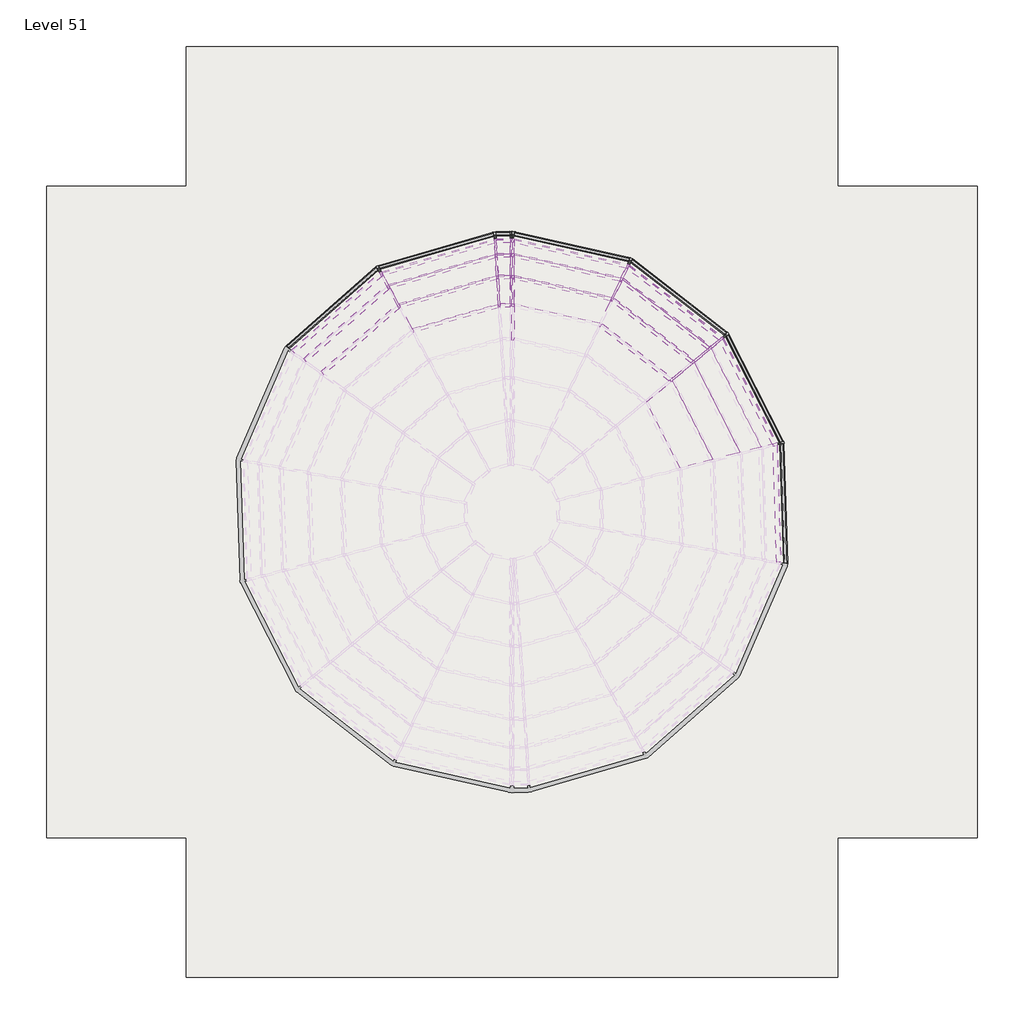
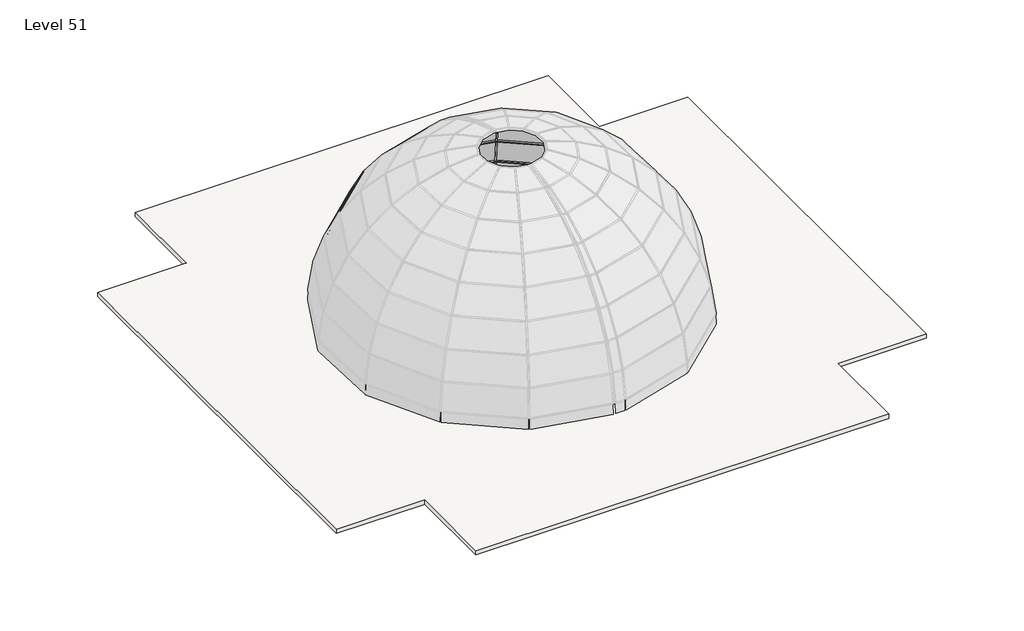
# One storey, part 5 of 5: 50 members, 29 plates, 1 roof.
"""IFC4 building model written with IfcOpenShell, lengths in millimetres."""

from ifc_helpers import new_model, si_unit, frame, origin, place, context, project, spatial, polyline, outline, extrude, transform, mapped, element, save
from components import member_1612663b, member_5eaec6db, member_d183bd50, member_3761eb40, member_c8fdef67, member_19265363, member_bab2e2f0, member_1b14bcb5, member_1e4e3dac, member_4ad3c4be, member_44404943, member_f539bf5b, member_d9f9b3f1, member_01029f2d, member_43068072, member_3efaebad, member_6411af83, member_606bd935, member_05436e89, member_70710cef, member_ac0e8256, member_b7186879, member_3d04d663, member_1ac3cc72, member_84afa52a, system_panel_glazed_7ce28d7e, system_panel_glazed_91a8511b, system_panel_glazed_bc7ae3a6, system_panel_glazed_24f176ce, system_panel_glazed_5c68d9ee, system_panel_glazed_73e2dce4, system_panel_glazed_0a8d51ec, system_panel_glazed_e2cbaf5e, system_panel_glazed_cf9631f2, system_panel_glazed_53c58da0, system_panel_glazed_9d9da8a2, system_panel_glazed_7f2b973a, system_panel_glazed_65ecf698, system_panel_glazed_75a13c62, system_panel_glazed_a149731e, system_panel_glazed_d1d661fa

model = new_model("IFC4")

# Units and contexts
model_context = context("Model", 3, world=origin())
ifc_project = project(units=[si_unit("LENGTHUNIT", "METRE", prefix="MILLI")], contexts=[model_context])

# Site, building, storey
site = spatial("IfcSite", under=ifc_project)
building = spatial("IfcBuilding", under=site)
storey = spatial("IfcBuildingStorey", under=building, Name="Level 51", Elevation=152400.0)

# Members
placement = place(None, origin())
member_shape = member_1612663b(model_context)
element("IfcMember", 1, ObjectType="Rectangular Mullion : 2.5\" x 5\" rectangular", at=placement, inside=storey, context=model_context, shape_type="MappedRepresentation", body=[
    mapped(member_shape, transform((-187.1329919, 565.2919821, 157327.0596321), x_axis=(0.8767485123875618, 0.4809491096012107, 0.0), y_axis=(-0.4253451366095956, 0.7753849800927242, 0.46675437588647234), z_axis=(0.22448510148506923, -0.40922620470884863, 0.8843869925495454))),
])
element("IfcMember", 2, ObjectType="Rectangular Mullion : 2.5\" x 5\" rectangular", at=placement, inside=storey, context=model_context, shape_type="MappedRepresentation", body=[
    mapped(member_shape, transform((-529.2482866, 1188.9527181, 155979.2538554), x_axis=(0.876748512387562, 0.4809491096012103, 0.0), y_axis=(-0.45672161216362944, 0.8325828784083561, 0.3133865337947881), z_axis=(0.15072297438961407, -0.27476117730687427, 0.9496256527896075))),
])
element("IfcMember", 3, ObjectType="Rectangular Mullion : 2.5\" x 5\" rectangular", at=placement, inside=storey, context=model_context, shape_type="MappedRepresentation", body=[
    mapped(member_shape, transform((3099.3037805, 576.4736405, 158538.0026411), x_axis=(0.9980933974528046, 0.06172171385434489, 0.0), y_axis=(-0.04904296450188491, 0.7930670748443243, 0.6071568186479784), z_axis=(0.037474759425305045, -0.6059992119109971, 0.7945820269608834))),
])
element("IfcMember", 4, ObjectType="Rectangular Mullion : 2.5\" x 5\" rectangular", at=placement, inside=storey, context=model_context, shape_type="MappedRepresentation", body=[
    mapped(member_shape, transform((3042.1922472, 1500.0164394, 157327.0596321), x_axis=(0.9980933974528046, 0.06172171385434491, 0.0), y_axis=(-0.054585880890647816, 0.8827008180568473, 0.4667543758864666), z_axis=(0.028808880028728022, -0.46586446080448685, 0.8843869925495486))),
])
element("IfcMember", 5, ObjectType="Rectangular Mullion : 2.5\" x 5\" rectangular", at=placement, inside=storey, context=model_context, shape_type="MappedRepresentation", body=[
    mapped(member_shape, transform((2998.287514, 2209.9938777, 155979.2538554), x_axis=(0.9980933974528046, 0.061721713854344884, 0.0), y_axis=(-0.0586125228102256, 0.947815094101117, 0.3133865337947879), z_axis=(0.01934275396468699, -0.31278903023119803, 0.9496256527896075))),
])
element("IfcMember", 6, ObjectType="Rectangular Mullion : 2.5\" x 5\" rectangular", at=placement, inside=storey, context=model_context, shape_type="MappedRepresentation", body=[
    mapped(member_shape, transform((8741.29142, -1869.6452335, 158538.0026411), x_axis=(0.6371882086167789, -0.7707082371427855, 0.0), y_axis=(0.6123909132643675, 0.5062982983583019, 0.6071568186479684), z_axis=(-0.4679407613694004, -0.38687316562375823, 0.7945820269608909))),
])
element("IfcMember", 7, ObjectType="Rectangular Mullion : 2.5\" x 5\" rectangular", at=placement, inside=storey, context=model_context, shape_type="MappedRepresentation", body=[
    mapped(member_shape, transform((9454.4331403, -1280.0505291, 157327.0596321), x_axis=(0.6371882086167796, -0.7707082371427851, 0.0), y_axis=(0.6816043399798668, 0.5635209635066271, 0.46675437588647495), z_axis=(-0.35973144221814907, -0.2974103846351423, 0.884386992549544))),
])
element("IfcMember", 8, ObjectType="Rectangular Mullion : 2.5\" x 5\" rectangular", at=placement, inside=storey, context=model_context, shape_type="MappedRepresentation", body=[
    mapped(member_shape, transform((10002.6638582, -826.7971029, 155979.2538554), x_axis=(0.63718820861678, -0.7707082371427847, 0.0), y_axis=(0.7318843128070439, 0.6050902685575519, 0.31338653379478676), z_axis=(-0.241529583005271, -0.19968620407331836, 0.949625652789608))),
])
element("IfcMember", 9, ObjectType="Rectangular Mullion : 2.5\" x 5\" rectangular", at=placement, inside=storey, context=model_context, shape_type="MappedRepresentation", body=[
    mapped(member_shape, transform((6798.4980492, 781.0802535, 157327.0596321), x_axis=(0.9047619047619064, -0.4259177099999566, 0.0), y_axis=(0.37667608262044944, 0.8001596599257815, 0.46675437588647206), z_axis=(-0.19879895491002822, -0.42230157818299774, 0.8843869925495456))),
])
element("IfcMember", 10, ObjectType="Rectangular Mullion : 2.5\" x 5\" rectangular", at=placement, inside=storey, context=model_context, shape_type="MappedRepresentation", body=[
    mapped(member_shape, transform((7101.4676565, 1424.6678586, 155979.2538554), x_axis=(0.9047619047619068, -0.4259177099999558, 0.0), y_axis=(0.4044623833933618, 0.8591851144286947, 0.31338653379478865), z_axis=(-0.1334768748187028, -0.28354019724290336, 0.9496256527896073))),
])
member_2_shape = member_5eaec6db(model_context)
element("IfcMember", 11, ObjectType="Rectangular Mullion : 2.5\" x 5\" rectangular", at=placement, inside=storey, context=model_context, shape_type="MappedRepresentation", body=[
    mapped(member_2_shape, transform((-758.9500996, 1607.6887523, 154532.0243606), x_axis=(0.8767485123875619, 0.48094910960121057, 0.0), y_axis=(-0.47541137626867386, 0.8666534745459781, 0.15131351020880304), z_axis=(0.07277409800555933, -0.1326638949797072, 0.9884858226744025))),
])
element("IfcMember", 12, ObjectType="Rectangular Mullion : 2.5\" x 5\" rectangular", at=placement, inside=storey, context=model_context, shape_type="MappedRepresentation", body=[
    mapped(member_2_shape, transform((2968.8091569, 2686.6843598, 154532.0243606), x_axis=(0.9980933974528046, 0.06172171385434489, 0.0), y_axis=(-0.06101103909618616, 0.986601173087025, 0.15131351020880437), z_axis=(0.009339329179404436, -0.1510250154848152, 0.9884858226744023))),
])
element("IfcMember", 13, ObjectType="Rectangular Mullion : 2.5\" x 5\" rectangular", at=placement, inside=storey, context=model_context, shape_type="MappedRepresentation", body=[
    mapped(member_2_shape, transform((10370.7549427, -522.4753279, 154532.0243606), x_axis=(0.6371882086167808, -0.7707082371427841, 0.0), y_axis=(0.7618341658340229, 0.6298515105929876, 0.15131351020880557), z_axis=(-0.1166185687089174, -0.09641518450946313, 0.9884858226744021))),
])
element("IfcMember", 14, ObjectType="Rectangular Mullion : 2.5\" x 5\" rectangular", at=placement, inside=storey, context=model_context, shape_type="MappedRepresentation", body=[
    mapped(member_2_shape, transform((12131.2676835, -3980.9454355, 154532.0243606), x_axis=(0.2482453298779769, -0.9686971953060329, 0.0), y_axis=(0.9575434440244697, 0.24538698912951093, 0.15131351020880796), z_axis=(-0.14657697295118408, -0.037562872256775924, 0.9884858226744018))),
])
element("IfcMember", 15, ObjectType="Rectangular Mullion : 2.5\" x 5\" rectangular", at=placement, inside=storey, context=model_context, shape_type="MappedRepresentation", body=[
    mapped(member_2_shape, transform((7304.8864137, 1856.7831192, 154532.0243606), x_axis=(0.9047619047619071, -0.42591770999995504, 0.0), y_axis=(0.42101361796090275, 0.8943443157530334, 0.15131351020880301), z_axis=(-0.06444710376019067, -0.13690269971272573, 0.9884858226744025))),
])
member_3_shape = member_d183bd50(model_context)
element("IfcMember", 16, ObjectType="Rectangular Mullion : 2.5\" x 5\" rectangular", at=placement, inside=storey, context=model_context, shape_type="MappedRepresentation", body=[
    mapped(member_3_shape, transform((-893.6915097, 1788.891923, 153025.5719668), x_axis=(-0.04631017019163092, 0.05261776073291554, -0.9975403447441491), y_axis=(-0.659055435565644, 0.748820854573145, 0.07009465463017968), z_axis=(0.7506672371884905, 0.6606804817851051, 0.0))),
])
element("IfcMember", 17, ObjectType="Rectangular Mullion : 2.5\" x 5\" rectangular", at=placement, inside=storey, context=model_context, shape_type="MappedRepresentation", body=[
    mapped(member_3_shape, transform((2924.0779015, 2908.0188385, 153025.5719668), x_axis=(-0.019488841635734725, 0.06733086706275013, -0.9975403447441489), y_axis=(-0.2773521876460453, 0.958207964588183, 0.07009465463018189), z_axis=(0.9605706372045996, 0.2780360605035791, 0.0))),
])
element("IfcMember", 18, ObjectType="Rectangular Mullion : 2.5\" x 5\" rectangular", at=placement, inside=storey, context=model_context, shape_type="MappedRepresentation", body=[
    mapped(member_3_shape, transform((10523.398686, -356.0730313, 153025.5719668), x_axis=(0.04297421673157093, 0.05537578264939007, -0.9975403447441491), y_axis=(0.611580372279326, 0.7880711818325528, 0.07009465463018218), z_axis=(0.7900143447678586, -0.6130883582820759, 0.0))),
])
element("IfcMember", 19, ObjectType="Rectangular Mullion : 2.5\" x 5\" rectangular", at=placement, inside=storey, context=model_context, shape_type="MappedRepresentation", body=[
    mapped(member_3_shape, transform((12340.2476125, -3895.4046503, 153025.5719668), x_axis=(0.062466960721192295, 0.031798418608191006, -0.9975403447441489), y_axis=(0.8889880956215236, 0.45253387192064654, 0.07009465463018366), z_axis=(0.45364969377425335, -0.8911800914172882, 0.0))),
])
member_4_shape = member_3761eb40(model_context)
element("IfcMember", 20, ObjectType="Rectangular Mullion : 2.5\" x 5\" rectangular", at=placement, inside=storey, context=model_context, shape_type="MappedRepresentation", body=[
    mapped(member_4_shape, transform((3454.1673289, 2932.2790112, 153025.5719668), x_axis=(-0.0021133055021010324, 0.0684132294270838, -0.9976548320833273), y_axis=(-0.030803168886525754, 0.9971791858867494, 0.06844586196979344), z_axis=(0.9995232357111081, 0.030875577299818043, 0.0))),
])
member_5_shape = member_c8fdef67(model_context)
element("IfcMember", 21, ObjectType="Rectangular Mullion : 2.5\" x 5\" rectangular", at=placement, inside=storey, context=model_context, shape_type="MappedRepresentation", body=[
    mapped(member_5_shape, transform((3454.1673289, 2224.0761441, 155979.2538554), x_axis=(-0.012090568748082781, 0.39140335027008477, -0.9201397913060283), y_axis=(-0.028409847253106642, 0.9197011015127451, 0.39159004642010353), z_axis=(0.9995232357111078, 0.030875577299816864, 0.0))),
])
member_6_shape = member_19265363(model_context)
element("IfcMember", 22, ObjectType="Rectangular Mullion : 2.5\" x 5\" rectangular", at=placement, inside=storey, context=model_context, shape_type="MappedRepresentation", body=[
    mapped(member_6_shape, transform((7273.9015864, 1863.7115372, 154532.0243606), x_axis=(0.05206567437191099, 0.23284477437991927, -0.9711191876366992), y_axis=(0.21191558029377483, 0.9477152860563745, 0.2385948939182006), z_axis=(0.9759000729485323, -0.21821789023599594, 0.0))),
])
member_7_shape = member_bab2e2f0(model_context)
element("IfcMember", 23, ObjectType="Rectangular Mullion : 2.5\" x 5\" rectangular", at=placement, inside=storey, context=model_context, shape_type="MappedRepresentation", body=[
    mapped(member_7_shape, transform((-782.7837843, 1586.712147, 154532.0243606), x_axis=(-0.15763498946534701, 0.17910536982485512, -0.9711191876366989), y_axis=(-0.6415994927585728, 0.7289873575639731, 0.23859489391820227), z_axis=(0.7506672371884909, 0.6606804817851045, 0.0))),
])
element("IfcMember", 24, ObjectType="Rectangular Mullion : 2.5\" x 5\" rectangular", at=placement, inside=storey, context=model_context, shape_type="MappedRepresentation", body=[
    mapped(member_7_shape, transform((2938.3110392, 2677.8567149, 154532.0243606), x_axis=(-0.06633798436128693, 0.22918724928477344, -0.9711191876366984), y_axis=(-0.27000615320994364, 0.9328285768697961, 0.23859489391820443), z_axis=(0.9605706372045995, 0.27803606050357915, 0.0))),
])
element("IfcMember", 25, ObjectType="Rectangular Mullion : 2.5\" x 5\" rectangular", at=placement, inside=storey, context=model_context, shape_type="MappedRepresentation", body=[
    mapped(member_7_shape, transform((10345.6719873, -503.0097725, 154532.0243606), x_axis=(0.14627975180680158, 0.1884933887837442, -0.9711191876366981), y_axis=(0.5953818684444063, 0.7671980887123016, 0.23859489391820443), z_axis=(0.790014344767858, -0.6130883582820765, 0.0))),
])
element("IfcMember", 26, ObjectType="Rectangular Mullion : 2.5\" x 5\" rectangular", at=placement, inside=storey, context=model_context, shape_type="MappedRepresentation", body=[
    mapped(member_7_shape, transform((12116.8643057, -3952.6504676, 154532.0243606), x_axis=(0.21263101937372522, 0.10823850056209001, -0.9711191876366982), y_axis=(0.865442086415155, 0.44054792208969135, 0.23859489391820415), z_axis=(0.4536496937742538, -0.8911800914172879, 0.0))),
])
element("IfcMember", 27, ObjectType="Rectangular Mullion : 2.5\" x 5\" rectangular", at=placement, inside=storey, context=model_context, shape_type="MappedRepresentation", body=[
    mapped(member_7_shape, transform((12250.1085762, -7828.1361298, 154532.0243606), x_axis=(0.23848114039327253, 0.007366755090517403, -0.9711191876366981), y_axis=(0.9706561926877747, 0.02998386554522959, 0.2385948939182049), z_axis=(0.03087557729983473, -0.9995232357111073, 0.0))),
])
member_8_shape = member_1b14bcb5(model_context)
element("IfcMember", 28, ObjectType="Rectangular Mullion : 2.5\" x 5\" rectangular", at=placement, inside=storey, context=model_context, shape_type="MappedRepresentation", body=[
    mapped(member_8_shape, transform((3454.1673289, 2701.6772216, 154532.0243606), x_axis=(-0.007202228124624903, 0.23315497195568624, -0.9724129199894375), y_axis=(-0.030023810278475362, 0.9719493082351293, 0.23326618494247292), z_axis=(0.9995232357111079, 0.03087557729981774, 0.0))),
])
member_9_shape = member_1e4e3dac(model_context)
element("IfcMember", 29, ObjectType="Rectangular Mullion : 2.5\" x 5\" rectangular", at=placement, inside=storey, context=model_context, shape_type="MappedRepresentation", body=[
    mapped(member_9_shape, transform((7372.1189725, 2072.3512516, 153025.5719668), x_axis=(0.015295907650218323, 0.06840537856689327, -0.9975403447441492), y_axis=(0.21768114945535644, 0.9734996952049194, 0.07009465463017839), z_axis=(0.9759000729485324, -0.21821789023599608, 0.0))),
])
member_10_shape = member_4ad3c4be(model_context)
element("IfcMember", 30, ObjectType="Rectangular Mullion : 2.5\" x 5\" rectangular", at=placement, inside=storey, context=model_context, shape_type="MappedRepresentation", body=[
    mapped(member_10_shape, transform((-210.9666767, 544.3153768, 157327.0596321), x_axis=(-0.3621663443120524, 0.4114945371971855, -0.8363658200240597), y_axis=(-0.5525705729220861, 0.627832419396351, 0.5481717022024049), z_axis=(0.7506672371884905, 0.6606804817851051, 0.0))),
])
element("IfcMember", 31, ObjectType="Rectangular Mullion : 2.5\" x 5\" rectangular", at=placement, inside=storey, context=model_context, shape_type="MappedRepresentation", body=[
    mapped(member_10_shape, transform((3011.6941294, 1491.1887945, 157327.0596321), x_axis=(-0.1524115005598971, 0.5265576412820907, -0.8363658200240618), y_axis=(-0.23253985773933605, 0.8033884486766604, 0.5481717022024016), z_axis=(0.9605706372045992, 0.2780360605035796, 0.0))),
])
element("IfcMember", 32, ObjectType="Rectangular Mullion : 2.5\" x 5\" rectangular", at=placement, inside=storey, context=model_context, shape_type="MappedRepresentation", body=[
    mapped(member_10_shape, transform((9429.3501848, -1260.5849737, 157327.0596321), x_axis=(0.3360776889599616, 0.43306350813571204, -0.8363658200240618), y_axis=(0.5127661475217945, 0.6607409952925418, 0.5481717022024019), z_axis=(0.7900143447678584, -0.6130883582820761, 0.0))),
])
member_11_shape = member_44404943(model_context)
element("IfcMember", 33, ObjectType="Rectangular Mullion : 2.5\" x 5\" rectangular", at=placement, inside=storey, context=model_context, shape_type="MappedRepresentation", body=[
    mapped(member_11_shape, transform((3454.1673289, 1512.7424752, 157327.0596321), x_axis=(-0.01664231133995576, 0.5387551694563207, -0.8422979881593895), y_axis=(-0.02600643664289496, 0.8418964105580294, 0.5390121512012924), z_axis=(0.9995232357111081, 0.030875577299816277, 0.0))),
])
member_12_shape = member_f539bf5b(model_context)
element("IfcMember", 34, ObjectType="Rectangular Mullion : 2.5\" x 5\" rectangular", at=placement, inside=storey, context=model_context, shape_type="MappedRepresentation", body=[
    mapped(member_12_shape, transform((7070.4828292, 1431.5962766, 155979.2538554), x_axis=(0.08719349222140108, 0.38994115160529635, -0.9167023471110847), y_axis=(0.20004085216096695, 0.8946098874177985, 0.3995707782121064), z_axis=(0.9759000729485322, -0.21821789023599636, 0.0))),
])
member_13_shape = member_d9f9b3f1(model_context)
element("IfcMember", 35, ObjectType="Rectangular Mullion : 2.5\" x 5\" rectangular", at=placement, inside=storey, context=model_context, shape_type="MappedRepresentation", body=[
    mapped(member_13_shape, transform((-553.0819714, 1167.9761128, 155979.2538554), x_axis=(-0.26398861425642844, 0.2999446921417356, -0.9167023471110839), y_axis=(-0.6056473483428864, 0.6881384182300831, 0.3995707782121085), z_axis=(0.7506672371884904, 0.6606804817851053, 0.0))),
])
element("IfcMember", 36, ObjectType="Rectangular Mullion : 2.5\" x 5\" rectangular", at=placement, inside=storey, context=model_context, shape_type="MappedRepresentation", body=[
    mapped(member_13_shape, transform((2967.7893963, 2201.1662328, 155979.2538554), x_axis=(-0.11109508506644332, 0.38381595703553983, -0.9167023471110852), y_axis=(-0.25487630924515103, 0.8805573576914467, 0.3995707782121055), z_axis=(0.9605706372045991, 0.2780360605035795, 0.0))),
])
element("IfcMember", 37, ObjectType="Rectangular Mullion : 2.5\" x 5\" rectangular", at=placement, inside=storey, context=model_context, shape_type="MappedRepresentation", body=[
    mapped(member_13_shape, transform((9977.5809028, -807.3315475, 155979.2538554), x_axis=(0.24497219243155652, 0.31566664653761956, -0.9167023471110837), y_axis=(0.5620195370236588, 0.7242080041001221, 0.3995707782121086), z_axis=(0.7900143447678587, -0.6130883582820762, 0.0))),
])
member_14_shape = member_01029f2d(model_context)
element("IfcMember", 38, ObjectType="Rectangular Mullion : 2.5\" x 5\" rectangular", at=placement, inside=storey, context=model_context, shape_type="MappedRepresentation", body=[
    mapped(member_14_shape, transform((3068.8056628, 567.6459956, 158538.0026411), x_axis=(-0.1891248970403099, 0.6533966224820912, -0.7330106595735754), y_axis=(-0.2038033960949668, 0.704108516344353, 0.6802171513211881), z_axis=(0.9605706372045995, 0.2780360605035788, 0.0))),
])
element("IfcMember", 39, ObjectType="Rectangular Mullion : 2.5\" x 5\" rectangular", at=placement, inside=storey, context=model_context, shape_type="MappedRepresentation", body=[
    mapped(member_14_shape, transform((8716.2084645, -1850.1796781, 158538.0026411), x_axis=(0.4170332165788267, 0.5373813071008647, -0.7330106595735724), y_axis=(0.4494003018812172, 0.5790889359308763, 0.6802171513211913), z_axis=(0.7900143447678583, -0.6130883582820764, 0.0))),
])
member_15_shape = member_43068072(model_context)
element("IfcMember", 40, ObjectType="Rectangular Mullion : 2.5\" x 5\" rectangular", at=placement, inside=storey, context=model_context, shape_type="MappedRepresentation", body=[
    mapped(member_15_shape, transform((3454.1673289, 587.4354836, 158538.0026411), x_axis=(-0.02073097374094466, 0.671115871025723, -0.7410625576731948), y_axis=(-0.02288073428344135, 0.7407092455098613, 0.6714359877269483), z_axis=(0.9995232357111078, 0.030875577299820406, 0.0))),
])
member_16_shape = member_3efaebad(model_context)
element("IfcMember", 41, ObjectType="Rectangular Mullion : 2.5\" x 5\" rectangular", at=placement, inside=storey, context=model_context, shape_type="MappedRepresentation", body=[
    mapped(member_16_shape, transform((6767.5132219, 788.0086715, 157327.0596321), x_axis=(0.11962087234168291, 0.5349608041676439, -0.8363658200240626), y_axis=(0.1825099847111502, 0.8162094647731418, 0.5481717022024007), z_axis=(0.9759000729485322, -0.2182178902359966, 0.0))),
])
member_17_shape = member_6411af83(model_context)
element("IfcMember", 42, ObjectType="Rectangular Mullion : 2.5\" x 5\" rectangular", at=placement, inside=storey, context=model_context, shape_type="MappedRepresentation", body=[
    mapped(member_17_shape, transform((3517.6370544, 2226.0367432, 155979.2538554), x_axis=(0.9995700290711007, 0.027844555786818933, 0.009188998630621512), y_axis=(-0.029321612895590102, 0.9492173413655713, 0.3132517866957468), z_axis=(0.0, -0.3133865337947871, 0.9496256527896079))),
])
member_18_shape = member_606bd935(model_context)
element("IfcMember", 43, ObjectType="Rectangular Mullion : 2.5\" x 5\" rectangular", at=placement, inside=storey, context=model_context, shape_type="MappedRepresentation", body=[
    mapped(member_18_shape, transform((3517.6370544, 2703.6378208, 154532.0243606), x_axis=(0.9995341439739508, 0.030168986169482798, 0.004618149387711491), y_axis=(-0.03052040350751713, 0.9880253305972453, 0.15124301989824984), z_axis=(0.0, -0.1513135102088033, 0.9884858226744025))),
])
member_19_shape = member_05436e89(model_context)
element("IfcMember", 44, ObjectType="Rectangular Mullion : 2.5\" x 5\" rectangular", at=placement, inside=storey, context=model_context, shape_type="MappedRepresentation", body=[
    mapped(member_19_shape, transform((3517.6370544, 589.3960828, 158538.0026411), x_axis=(0.9996989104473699, 0.019497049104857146, 0.014898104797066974), y_axis=(-0.024537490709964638, 0.794342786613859, 0.6069740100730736), z_axis=(0.0, -0.6071568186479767, 0.7945820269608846))),
])
member_20_shape = member_70710cef(model_context)
element("IfcMember", 45, ObjectType="Rectangular Mullion : 2.5\" x 5\" rectangular", at=placement, inside=storey, context=model_context, shape_type="MappedRepresentation", body=[
    mapped(member_20_shape, transform((3517.6370544, 1514.7030744, 157327.0596321), x_axis=(0.9996270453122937, 0.024151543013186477, 0.012746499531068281), y_axis=(-0.027308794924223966, 0.884057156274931, 0.466580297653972), z_axis=(0.0, -0.4667543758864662, 0.8843869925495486))),
])
member_21_shape = member_ac0e8256(model_context)
element("IfcMember", 46, ObjectType="Rectangular Mullion : 2.5\" x 5\" rectangular", at=placement, inside=storey, context=model_context, shape_type="MappedRepresentation", body=[
    mapped(member_21_shape, transform((3517.6370544, 589.3960828, 158538.0026411), x_axis=(-0.9885476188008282, 0.10302655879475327, 0.11026846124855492), y_axis=(0.15090926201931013, 0.6748867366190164, 0.722325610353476), z_axis=(0.0, 0.7306937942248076, -0.6827053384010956))),
])
member_22_shape = member_b7186879(model_context)
element("IfcMember", 47, ObjectType="Rectangular Mullion : 2.5\" x 5\" rectangular", at=placement, inside=storey, context=model_context, shape_type="MappedRepresentation", body=[
    mapped(member_22_shape, transform((3517.6370544, 1514.7030744, 157327.0596321), x_axis=(-0.9845801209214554, 0.1389995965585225, 0.1062125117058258), y_axis=(0.1749342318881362, 0.7823296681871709, 0.5977945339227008), z_axis=(0.0, 0.6071568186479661, -0.7945820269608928))),
])
member_23_shape = member_3d04d663(model_context)
element("IfcMember", 48, ObjectType="Rectangular Mullion : 2.5\" x 5\" rectangular", at=placement, inside=storey, context=model_context, shape_type="MappedRepresentation", body=[
    mapped(member_23_shape, transform((3517.6370544, 2226.0367432, 155979.2538554), x_axis=(-0.9810019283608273, 0.17156929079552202, 0.09054940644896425), y_axis=(0.193997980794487, 0.8675853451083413, 0.4578869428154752), z_axis=(0.0, 0.46675437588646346, -0.8843869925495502))),
])
member_24_shape = member_1ac3cc72(model_context)
element("IfcMember", 49, ObjectType="Rectangular Mullion : 2.5\" x 5\" rectangular", at=placement, inside=storey, context=model_context, shape_type="MappedRepresentation", body=[
    mapped(member_24_shape, transform((3517.6370544, 2703.6378208, 154532.0243606), x_axis=(-0.9781901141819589, 0.1972482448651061, 0.06509401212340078), y_axis=(0.2077115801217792, 0.9289144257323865, 0.30655160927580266), z_axis=(0.0, 0.31338653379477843, -0.9496256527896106))),
])
member_25_shape = member_84afa52a(model_context)
element("IfcMember", 50, ObjectType="Rectangular Mullion : 2.5\" x 5\" rectangular", at=placement, inside=storey, context=model_context, shape_type="MappedRepresentation", body=[
    mapped(member_25_shape, transform((3517.6370544, 2934.2396103, 153025.5719668), x_axis=(-0.9764325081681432, 0.21333795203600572, 0.03265693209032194), y_axis=(0.2158229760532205, 0.9651896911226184, 0.14774743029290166), z_axis=(0.0, 0.15131351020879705, -0.9884858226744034))),
])

# Plates
system_panel_glazed_shape = system_panel_glazed_7ce28d7e(model_context)
element("IfcPlate", 51, ObjectType="System Panel : Glazed", at=placement, inside=storey, context=model_context, shape_type="MappedRepresentation", body=[
    mapped(system_panel_glazed_shape, transform((8464.2064714, -3670.316088, 159556.4887654), x_axis=(0.4536496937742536, -0.8911800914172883, 0.0), y_axis=(-0.6162983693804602, -0.3137228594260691, -0.7223256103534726), z_axis=(0.643722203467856, 0.32768279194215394, -0.6915531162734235))),
])
system_panel_glazed_2_shape = system_panel_glazed_91a8511b(model_context)
element("IfcPlate", 52, ObjectType="System Panel : Glazed", at=placement, inside=storey, context=model_context, shape_type="MappedRepresentation", body=[
    mapped(system_panel_glazed_2_shape, transform((4980.7872142, 281.6744493, 158512.550274), x_axis=(0.9759000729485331, -0.2182178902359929, 0.0), y_axis=(-0.1749342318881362, -0.7823296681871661, -0.5977945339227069), z_axis=(0.13044946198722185, 0.5833877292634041, -0.8016493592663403))),
])
system_panel_glazed_3_shape = system_panel_glazed_bc7ae3a6(model_context)
element("IfcPlate", 53, ObjectType="System Panel : Glazed", at=placement, inside=storey, context=model_context, shape_type="MappedRepresentation", body=[
    mapped(system_panel_glazed_3_shape, transform((1673.3210633, 183.4836552, 158512.550274), x_axis=(0.9605706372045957, 0.2780360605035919, 0.0), y_axis=(0.22288742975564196, -0.7700408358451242, -0.5977945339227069), z_axis=(-0.16620843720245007, 0.5742238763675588, -0.8016493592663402))),
])
element("IfcPlate", 54, ObjectType="System Panel : Glazed", at=placement, inside=storey, context=model_context, shape_type="MappedRepresentation", body=[
    mapped(system_panel_glazed_3_shape, transform((9429.164108, -3179.1103929, 158512.550274), x_axis=(0.45364969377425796, -0.8911800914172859, 0.0), y_axis=(-0.714413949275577, -0.3636679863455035, -0.5977945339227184), z_axis=(0.5327425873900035, 0.27118930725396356, -0.8016493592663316))),
])
system_panel_glazed_4_shape = system_panel_glazed_24f176ce(model_context)
element("IfcPlate", 55, ObjectType="System Panel : Glazed", at=placement, inside=storey, context=model_context, shape_type="MappedRepresentation", body=[
    mapped(system_panel_glazed_4_shape, transform((3292.0051809, 601.7068626, 158512.7702278), x_axis=(0.9995232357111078, 0.030875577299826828, 0.0), y_axis=(0.024537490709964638, -0.7943427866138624, -0.6069740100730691), z_axis=(-0.018740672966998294, 0.6066846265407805, -0.794721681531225))),
])
system_panel_glazed_5_shape = system_panel_glazed_5c68d9ee(model_context)
element("IfcPlate", 56, ObjectType="System Panel : Glazed", at=placement, inside=storey, context=model_context, shape_type="MappedRepresentation", body=[
    mapped(system_panel_glazed_5_shape, transform((5176.8133895, 1158.5968924, 157298.8335509), x_axis=(0.9759000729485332, -0.21821789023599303, 0.0), y_axis=(-0.1939979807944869, -0.8675853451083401, -0.4578869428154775), z_axis=(0.0999191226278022, 0.44685190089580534, -0.889010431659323))),
])
system_panel_glazed_6_shape = system_panel_glazed_73e2dce4(model_context)
element("IfcPlate", 57, ObjectType="System Panel : Glazed", at=placement, inside=storey, context=model_context, shape_type="MappedRepresentation", body=[
    mapped(system_panel_glazed_6_shape, transform((1423.4875643, 1046.6189007, 157298.8335509), x_axis=(0.9605706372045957, 0.27803606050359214, 0.0), y_axis=(0.24717695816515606, -0.8539573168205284, -0.4578869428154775), z_axis=(-0.12730908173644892, 0.43983275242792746, -0.889010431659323))),
])
element("IfcPlate", 58, ObjectType="System Panel : Glazed", at=placement, inside=storey, context=model_context, shape_type="MappedRepresentation", body=[
    mapped(system_panel_glazed_6_shape, transform((8135.3786184, -237.99998, 157298.8335509), x_axis=(0.7900143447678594, -0.6130883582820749, 0.0), y_axis=(-0.5450419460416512, -0.7023309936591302, -0.45788694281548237), z_axis=(0.280725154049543, 0.36173725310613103, -0.8890104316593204))),
])
element("IfcPlate", 59, ObjectType="System Panel : Glazed", at=placement, inside=storey, context=model_context, shape_type="MappedRepresentation", body=[
    mapped(system_panel_glazed_6_shape, transform((10229.9474311, -2771.4766128, 157298.8335509), x_axis=(0.4536496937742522, -0.891180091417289, 0.0), y_axis=(-0.7922683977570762, -0.403299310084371, -0.45788694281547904), z_axis=(0.40805972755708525, 0.20772027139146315, -0.8890104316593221))),
])
system_panel_glazed_7_shape = system_panel_glazed_0a8d51ec(model_context)
element("IfcPlate", 60, ObjectType="System Panel : Glazed", at=placement, inside=storey, context=model_context, shape_type="MappedRepresentation", body=[
    mapped(system_panel_glazed_7_shape, transform((3263.5881829, 1521.6764179, 157298.9774288), x_axis=(0.9995232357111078, 0.030875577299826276, 0.0), y_axis=(0.02730879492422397, -0.8840571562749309, -0.46658029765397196), z_axis=(-0.0144059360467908, 0.46635784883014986, -0.8844788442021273))),
])
system_panel_glazed_8_shape = system_panel_glazed_e2cbaf5e(model_context)
element("IfcPlate", 61, ObjectType="System Panel : Glazed", at=placement, inside=storey, context=model_context, shape_type="MappedRepresentation", body=[
    mapped(system_panel_glazed_8_shape, transform((5327.2050412, 1831.3784115, 155949.0324897), x_axis=(0.9759000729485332, -0.21821789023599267, 0.0), y_axis=(-0.2077115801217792, -0.9289144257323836, -0.30655160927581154), z_axis=(0.06689504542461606, 0.2991637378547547, -0.9518540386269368))),
])
system_panel_glazed_9_shape = system_panel_glazed_cf9631f2(model_context)
element("IfcPlate", 62, ObjectType="System Panel : Glazed", at=placement, inside=storey, context=model_context, shape_type="MappedRepresentation", body=[
    mapped(system_panel_glazed_9_shape, transform((1231.8134849, 1708.822545, 155949.0324897), x_axis=(0.9605706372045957, 0.27803606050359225, 0.0), y_axis=(0.26464974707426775, -0.914323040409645, -0.30655160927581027), z_axis=(-0.08523240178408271, 0.2944644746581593, -0.9518540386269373))),
])
element("IfcPlate", 63, ObjectType="System Panel : Glazed", at=placement, inside=storey, context=model_context, shape_type="MappedRepresentation", body=[
    mapped(system_panel_glazed_9_shape, transform((8558.0329547, 306.6245982, 155949.0324897), x_axis=(0.7900143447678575, -0.6130883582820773, 0.0), y_axis=(-0.5835706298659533, -0.7519783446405, -0.30655160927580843), z_axis=(0.18794322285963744, 0.24218016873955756, -0.9518540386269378))),
])
element("IfcPlate", 64, ObjectType="System Panel : Glazed", at=placement, inside=storey, context=model_context, shape_type="MappedRepresentation", body=[
    mapped(system_panel_glazed_9_shape, transform((10844.3142267, -2458.7370091, 155949.0324897), x_axis=(0.4536496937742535, -0.8911800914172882, 0.0), y_axis=(-0.8482733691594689, -0.43180829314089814, -0.3065516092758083), z_axis=(0.27319269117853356, 0.13906704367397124, -0.9518540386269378))),
])
system_panel_glazed_10_shape = system_panel_glazed_53c58da0(model_context)
element("IfcPlate", 65, ObjectType="System Panel : Glazed", at=placement, inside=storey, context=model_context, shape_type="MappedRepresentation", body=[
    mapped(system_panel_glazed_10_shape, transform((3241.7870294, 2227.4661402, 155949.1018294), x_axis=(0.9995232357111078, 0.030875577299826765, 0.0), y_axis=(0.029321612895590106, -0.9492173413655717, -0.31325178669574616), z_axis=(-0.00967182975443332, 0.3131024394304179, -0.9496701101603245))),
])
system_panel_glazed_11_shape = system_panel_glazed_9d9da8a2(model_context)
element("IfcPlate", 66, ObjectType="System Panel : Glazed", at=placement, inside=storey, context=model_context, shape_type="MappedRepresentation", body=[
    mapped(system_panel_glazed_11_shape, transform((5427.7862561, 2281.3222996, 154500.6228129), x_axis=(0.9759000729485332, -0.21821789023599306, 0.0), y_axis=(-0.21582297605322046, -0.9651896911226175, -0.1477474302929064), z_axis=(0.03224113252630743, 0.14418672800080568, -0.9890251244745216))),
])
system_panel_glazed_12_shape = system_panel_glazed_7f2b973a(model_context)
element("IfcPlate", 67, ObjectType="System Panel : Glazed", at=placement, inside=storey, context=model_context, shape_type="MappedRepresentation", body=[
    mapped(system_panel_glazed_12_shape, transform((-2218.6349527, 329.2337145, 154500.6228129), x_axis=(0.7506672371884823, 0.6606804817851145, 0.0), y_axis=(0.6534295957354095, -0.7424287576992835, -0.1477474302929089), z_axis=(-0.09761384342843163, 0.11090915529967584, -0.9890251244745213))),
])
element("IfcPlate", 68, ObjectType="System Panel : Glazed", at=placement, inside=storey, context=model_context, shape_type="MappedRepresentation", body=[
    mapped(system_panel_glazed_12_shape, transform((1103.6252668, 2151.6925746, 154500.6228129), x_axis=(0.9605706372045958, 0.2780360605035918, 0.0), y_axis=(0.27498464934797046, -0.9500284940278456, -0.14774743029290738), z_axis=(-0.041079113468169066, 0.1419218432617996, -0.9890251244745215))),
])
element("IfcPlate", 69, ObjectType="System Panel : Glazed", at=placement, inside=storey, context=model_context, shape_type="MappedRepresentation", body=[
    mapped(system_panel_glazed_12_shape, transform((8840.696664, 670.8598379, 154500.6228129), x_axis=(0.7900143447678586, -0.6130883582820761, 0.0), y_axis=(-0.6063597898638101, -0.7813440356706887, -0.14774743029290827), z_axis=(0.09058222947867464, 0.11672258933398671, -0.9890251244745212))),
])
element("IfcPlate", 70, ObjectType="System Panel : Glazed", at=placement, inside=storey, context=model_context, shape_type="MappedRepresentation", body=[
    mapped(system_panel_glazed_12_shape, transform((11255.1918219, -2249.5823197, 154500.6228129), x_axis=(0.45364969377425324, -0.8911800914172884, 0.0), y_axis=(-0.8813995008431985, -0.4486709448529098, -0.14774743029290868), z_axis=(0.13166956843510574, 0.06702557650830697, -0.9890251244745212))),
])
element("IfcPlate", 71, ObjectType="System Panel : Glazed", at=placement, inside=storey, context=model_context, shape_type="MappedRepresentation", body=[
    mapped(system_panel_glazed_12_shape, transform((12195.8670241, -5920.2633773, 154500.6228129), x_axis=(0.030875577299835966, -0.9995232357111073, 0.0), y_axis=(-0.9885535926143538, -0.03053672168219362, -0.14774743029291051), z_axis=(0.14767698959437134, 0.004561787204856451, -0.989025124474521))),
])
system_panel_glazed_13_shape = system_panel_glazed_65ecf698(model_context)
element("IfcPlate", 72, ObjectType="System Panel : Glazed", at=placement, inside=storey, context=model_context, shape_type="MappedRepresentation", body=[
    mapped(system_panel_glazed_13_shape, transform((3227.2072377, 2699.4706116, 154500.6395932), x_axis=(0.9995232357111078, 0.03087557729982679, 0.0), y_axis=(0.030520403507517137, -0.9880253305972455, -0.15124301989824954), z_axis=(-0.004669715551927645, 0.1511709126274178, -0.9884966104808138))),
])
system_panel_glazed_14_shape = system_panel_glazed_75a13c62(model_context)
element("IfcPlate", 73, ObjectType="System Panel : Glazed", at=placement, inside=storey, context=model_context, shape_type="MappedRepresentation", body=[
    mapped(system_panel_glazed_14_shape, transform((5476.0947016, 2497.4018968, 152993.8396842), x_axis=(0.9759000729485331, -0.21821789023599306, 0.0), y_axis=(-0.2180961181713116, -0.9753554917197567, -0.033402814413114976), z_axis=(0.00728909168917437, 0.03259780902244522, -0.9994419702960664))),
])
system_panel_glazed_15_shape = system_panel_glazed_a149731e(model_context)
element("IfcPlate", 74, ObjectType="System Panel : Glazed", at=placement, inside=storey, context=model_context, shape_type="MappedRepresentation", body=[
    mapped(system_panel_glazed_15_shape, transform((-2364.9187695, 495.4418464, 152993.8396842), x_axis=(0.7506672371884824, 0.6606804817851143, 0.0), y_axis=(0.6603118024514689, -0.7502483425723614, -0.033402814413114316), z_axis=(-0.02206858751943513, 0.02507439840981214, -0.9994419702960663))),
])
element("IfcPlate", 75, ObjectType="System Panel : Glazed", at=placement, inside=storey, context=model_context, shape_type="MappedRepresentation", body=[
    mapped(system_panel_glazed_15_shape, transform((1042.064229, 2364.3762288, 152993.8396842), x_axis=(0.9605706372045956, 0.27803606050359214, 0.0), y_axis=(0.2778809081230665, -0.960034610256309, -0.033402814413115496), z_axis=(-0.009287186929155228, 0.0320857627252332, -0.9994419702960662))),
])
element("IfcPlate", 76, ObjectType="System Panel : Glazed", at=placement, inside=storey, context=model_context, shape_type="MappedRepresentation", body=[
    mapped(system_panel_glazed_15_shape, transform((8976.442925, 845.7799647, 152993.8396842), x_axis=(0.7900143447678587, -0.6130883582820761, 0.0), y_axis=(-0.6127462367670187, -0.7895734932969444, -0.03340281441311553), z_axis=(0.02047887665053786, 0.026388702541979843, -0.9994419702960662))),
])
element("IfcPlate", 77, ObjectType="System Panel : Glazed", at=placement, inside=storey, context=model_context, shape_type="MappedRepresentation", body=[
    mapped(system_panel_glazed_15_shape, transform((11452.5114474, -2149.1379891, 152993.8396842), x_axis=(0.4536496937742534, -0.8911800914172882, 0.0), y_axis=(-0.890682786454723, -0.45339654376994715, -0.033402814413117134), z_axis=(0.029767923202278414, 0.015153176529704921, -0.9994419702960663))),
])
element("IfcPlate", 78, ObjectType="System Panel : Glazed", at=placement, inside=storey, context=model_context, shape_type="MappedRepresentation", body=[
    mapped(system_panel_glazed_15_shape, transform((12417.1753235, -5913.4270965, 152993.8396842), x_axis=(0.030875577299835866, -0.9995232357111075, 0.0), y_axis=(-0.9989654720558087, -0.0308583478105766, -0.033402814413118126), z_axis=(0.033386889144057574, 0.001031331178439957, -0.9994419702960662))),
])
system_panel_glazed_16_shape = system_panel_glazed_d1d661fa(model_context)
element("IfcPlate", 79, ObjectType="System Panel : Glazed", at=placement, inside=storey, context=model_context, shape_type="MappedRepresentation", body=[
    mapped(system_panel_glazed_16_shape, transform((3220.2055601, 2926.1385606, 152993.8405516), x_axis=(0.9995232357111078, 0.030875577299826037, 0.0), y_axis=(0.030857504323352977, -0.9989381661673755, -0.034210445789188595), z_axis=(-0.0010562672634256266, 0.03419413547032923, -0.9994146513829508))),
])

# Roof
element("IfcRoof", 80, ObjectType="Generic - 9\"", at=placement, inside=storey, context=model_context, shape_type="SweptSolid", body=[
    extrude(outline(polyline([(-7150.3629456, 4479.6634547), (-7150.3629456, 9051.6634547), (14185.6370544, 9051.6634547), (14185.6370544, 4479.6634547), (18757.6370544, 4479.6634547), (18757.6370544, -16856.3365453), (14185.6370544, -16856.3365453), (14185.6370544, -21428.3365453), (-7150.3629456, -21428.3365453), (-7150.3629456, -16856.3365453), (-11722.3629456, -16856.3365453), (-11722.3629456, 4479.6634547), (-7150.3629456, 4479.6634547)])), frame((0.0, 0.0, 152171.4), z_axis=(0.0, 0.0, 1.0), x_axis=(1.0, 0.0, 0.0)), (0.0, 0.0, 1.0), 228.6),
])

save(model, "model.ifc")
